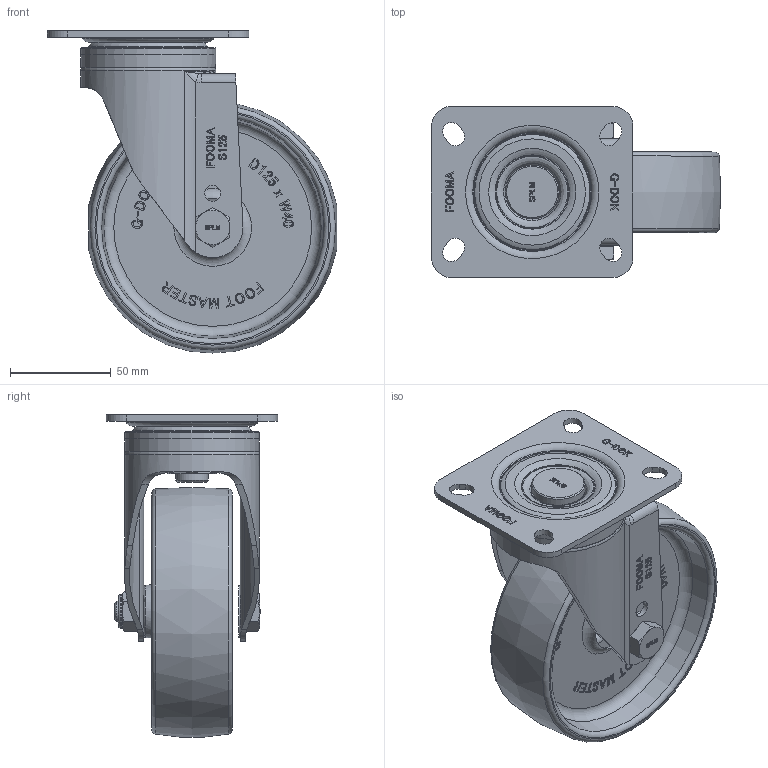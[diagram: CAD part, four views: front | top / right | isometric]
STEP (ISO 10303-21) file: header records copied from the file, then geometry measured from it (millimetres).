
FILE_DESCRIPTION(/* description */ (''),/* implementation_level */ '2;1');
FILE_NAME(/* name */ '\\192.168.10.38\지덕공유\1.기술연구소\2.연구개발 완료\완료_98.스테인레스캐스터 개발건_2023.10.26\제품설계\3D\홈페이지용\NYP\STP\SPLM-125-ASF-NYP-PEU.stp',/* time_stamp */ '2025-07-17T17:52:08+09:00',/* author */ ('admin'),/* organization */ ('지덕산업'),/* preprocessor_version */ 'ST-DEVELOPER v18.1',/* originating_system */ 'Autodesk Inventor 2021',/* authorisation */ '');
FILE_SCHEMA (('CONFIG_CONTROL_DESIGN'));
Length unit declared in the file: millimetre
Products named in the file (1): SPLM-125-ASF-NYP-PEU
Bounding box: 143.46 x 85 x 159.82 mm (x, y, z)
Volume: 325239.7 mm3; surface area: 98025.1 mm2
Topology: 1 solids, 1 shells, 1310 faces, 3571 edges, 2363 vertices
Faces by surface type: plane 649, bspline 454, cylinder 98, cone 72, torus 37
Full cylindrical faces by diameter (mm): 8 x2, 10 x1, 11 x1, 16 x2, 16.5 x1, 26.6 x1, 54 x1, 64 x1, 67 x1
Entity records: 42611 total; most frequent: CARTESIAN_POINT 12621, ORIENTED_EDGE 7138, DIRECTION 4572, EDGE_CURVE 3569, VERTEX_POINT 2363, LINE 2110, VECTOR 2110, EDGE_LOOP 1426
